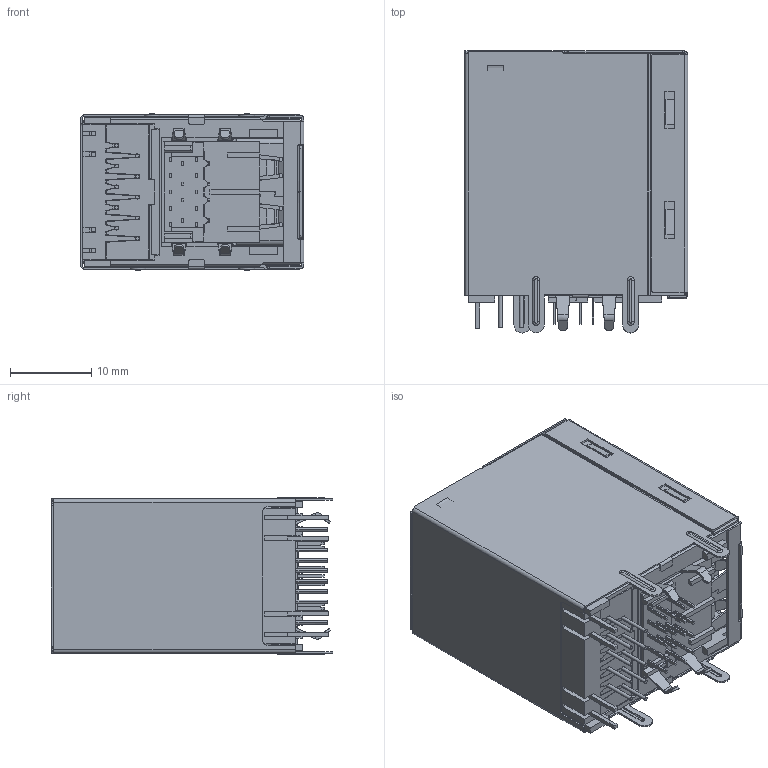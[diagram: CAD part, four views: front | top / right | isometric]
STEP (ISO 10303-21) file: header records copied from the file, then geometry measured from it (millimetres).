
FILE_DESCRIPTION((''),'2;1');
FILE_NAME('CZT22H-K045_ASM','2022-10-19T16:25:54',('Administrator'),(''),'CREO PARAMETRIC BY PTC INC, 2019010','CREO PARAMETRIC BY PTC INC, 2019010','');
FILE_SCHEMA(('CONFIG_CONTROL_DESIGN','SHAPE_APPEARANCE_LAYERS_GROUPS'));
Products named in the file (4): PRT0001_24; SHIELD-A_3_2_3_12; RJ45_2USB3_0_18_95_ASM_23_ASM; CZT22H-K045_ASM
Assembly tree (3 placements, depth 3):
  CZT22H-K045_ASM
    RJ45_2USB3_0_18_95_ASM_23_ASM
      PRT0001_24
      SHIELD-A_3_2_3_12
Bounding box: 27.46 x 34.62 x 19.25 mm (x, y, z)
Volume: 12207.4 mm3; surface area: 14610.1 mm2
Topology: 2 solids, 2 shells, 3035 faces, 8633 edges, 5626 vertices
Faces by surface type: plane 2283, cylinder 647, bspline 95, torus 6, cone 4
Entity records: 117228 total; most frequent: CARTESIAN_POINT 21128, ORIENTED_EDGE 17266, DIRECTION 15559, EDGE_CURVE 8633, VECTOR 7083, LINE 7083, VERTEX_POINT 5626, AXIS2_PLACEMENT_3D 4238
